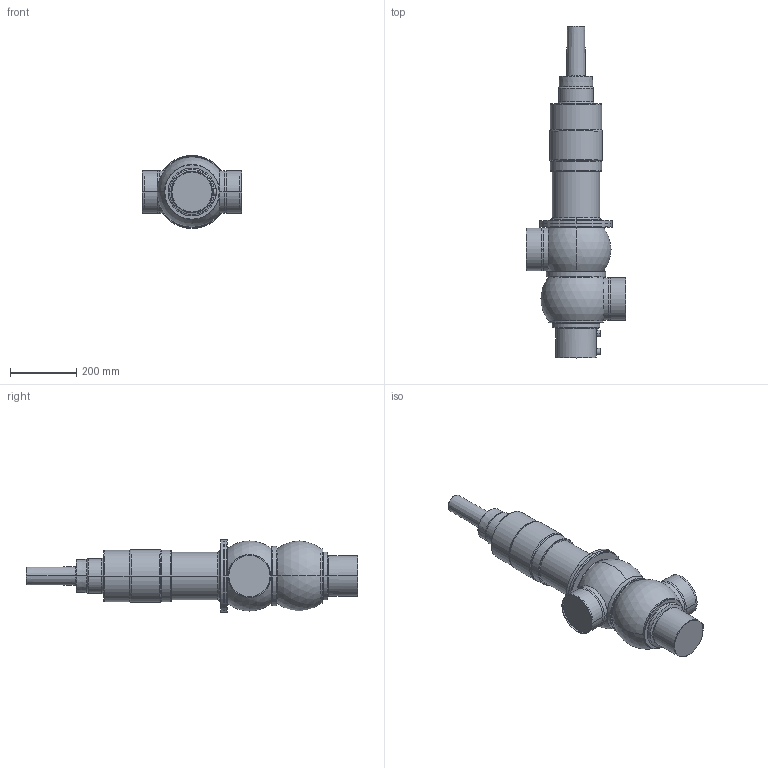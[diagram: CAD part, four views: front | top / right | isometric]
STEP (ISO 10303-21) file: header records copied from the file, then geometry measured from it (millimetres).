
FILE_DESCRIPTION(('Creo Elements/Direct Modeling STEP Export'),'2;1');
FILE_NAME('D41(1-7)-125.stp','2020-02-07T14:30:43',(''),(''),'Creo Elements/Direct Modeling STEP processor for AP214 (Solid Model)','Creo Elements/Direct Modeling 19.0F 14-Feb-2017 (C) Parametric Technology GmbH','');
FILE_SCHEMA(('AUTOMOTIVE_DESIGN { 1 0 10303 214 1 1 1 1 }'));
Length unit declared in the file: millimetre
Products named in the file (5): housing_D41-125; D4_Prox._holder.; Actuator_D4-D4SL-150_Yoke; drain_pipe_114; D41(1-7)-125_prox
Assembly tree (4 placements, depth 2):
  D41(1-7)-125_prox
    drain_pipe_114
    Actuator_D4-D4SL-150_Yoke
    D4_Prox._holder.
    housing_D41-125
Bounding box: 300 x 1004.8 x 221 mm (x, y, z)
Volume: 19664364.4 mm3; surface area: 739812.7 mm2
Topology: 4 solids, 4 shells, 152 faces, 325 edges, 195 vertices
Faces by surface type: torus 53, cylinder 51, plane 25, cone 16, sphere 4, bspline 3
Entity records: 7130 total; most frequent: CARTESIAN_POINT 3748, DIRECTION 673, ORIENTED_EDGE 650, EDGE_CURVE 325, AXIS2_PLACEMENT_3D 302, VERTEX_POINT 195, EDGE_LOOP 166, FACE_OUTER_BOUND 152
